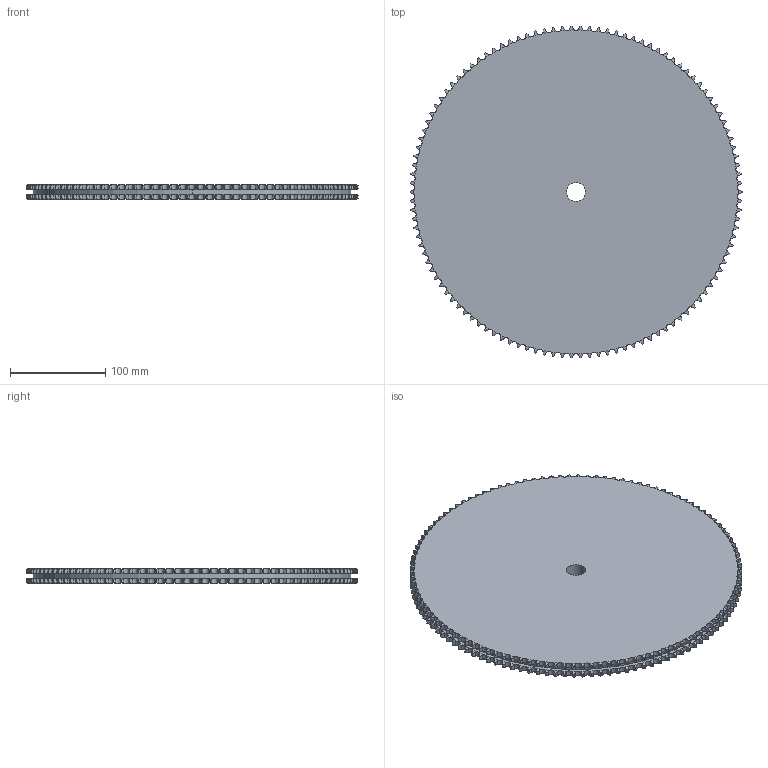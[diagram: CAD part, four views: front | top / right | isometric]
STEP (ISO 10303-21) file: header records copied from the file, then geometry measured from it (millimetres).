
FILE_DESCRIPTION((''),'2;1');
FILE_NAME('500-102-0114_PRT','2021-02-12T',('Brieden'),('Brieden'),'PRO/ENGINEER BY PARAMETRIC TECHNOLOGY CORPORATION, 2010160','PRO/ENGINEER BY PARAMETRIC TECHNOLOGY CORPORATION, 2010160','');
FILE_SCHEMA(('AUTOMOTIVE_DESIGN { 1 0 10303 214 1 1 1 1 }'));
Products named in the file (1): 500-102-0114_PRT
Bounding box: 348.99 x 348.88 x 15.4 mm (x, y, z)
Volume: 1392212 mm3; surface area: 215951.9 mm2
Topology: 1 solids, 1 shells, 1376 faces, 4116 edges, 2744 vertices
Faces by surface type: cylinder 916, torus 456, plane 4
Entity records: 67046 total; most frequent: CARTESIAN_POINT 19815, ORIENTED_EDGE 8232, DIRECTION 6420, PRESENTATION_STYLE_ASSIGNMENT 4117, STYLED_ITEM 4117, CURVE_STYLE 4116, EDGE_CURVE 4116, AXIS2_PLACEMENT_3D 2752
